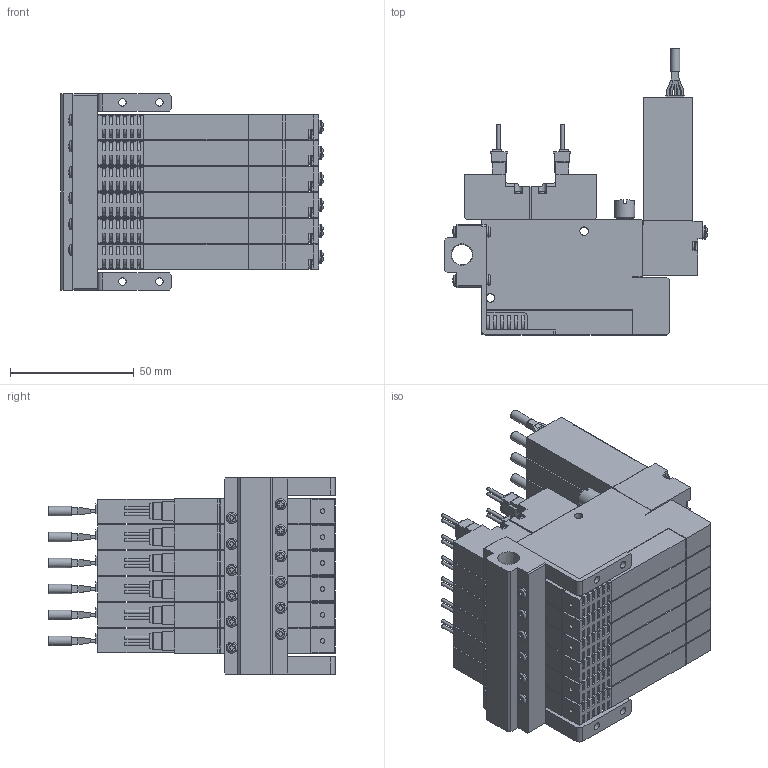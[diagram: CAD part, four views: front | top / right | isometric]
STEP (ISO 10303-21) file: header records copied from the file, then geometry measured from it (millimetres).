
FILE_DESCRIPTION(('STEP AP203'),'1');
FILE_NAME('5SS606_3D.stp','2024-09-04T23:10:11',(' '),(' '),'Spatial InterOp 3D',' ',' ');
FILE_SCHEMA(('CONFIG_CONTROL_DESIGN'));
Length unit declared in the file: millimetre
Products named in the file (5): BSC1M※※V9※5SS606; Solenoid valve S; Pressure Sensor V9; Unit-S; BaseMS60R
Assembly tree (19 placements, depth 2):
  BSC1M※※V9※5SS606
    Solenoid valve S  x6
    Pressure Sensor V9  x6
    Unit-S  x6
    BaseMS60R
Bounding box: 106.35 x 115.8 x 79.5 mm (x, y, z)
Volume: 349950.9 mm3; surface area: 138545.4 mm2
Topology: 19 solids, 19 shells, 3143 faces, 8637 edges, 5710 vertices
Faces by surface type: plane 2344, cylinder 699, sphere 34, torus 34, cone 32
Full cylindrical faces by diameter (mm): 1.4 x24, 1.8 x6, 2.5 x12, 3 x28, 3.5 x48, 3.8 x6, 4 x6, 4.134 x12, 4.5 x16, 5.5 x12, 7 x6, 7.7 x6, 8 x6, 8.422 x1
Entity records: 24242 total; most frequent: CARTESIAN_POINT 5358, DIRECTION 3780, ORIENTED_EDGE 3752, EDGE_CURVE 1876, LINE 1316, VECTOR 1316, VERTEX_POINT 1298, AXIS2_PLACEMENT_3D 1232
